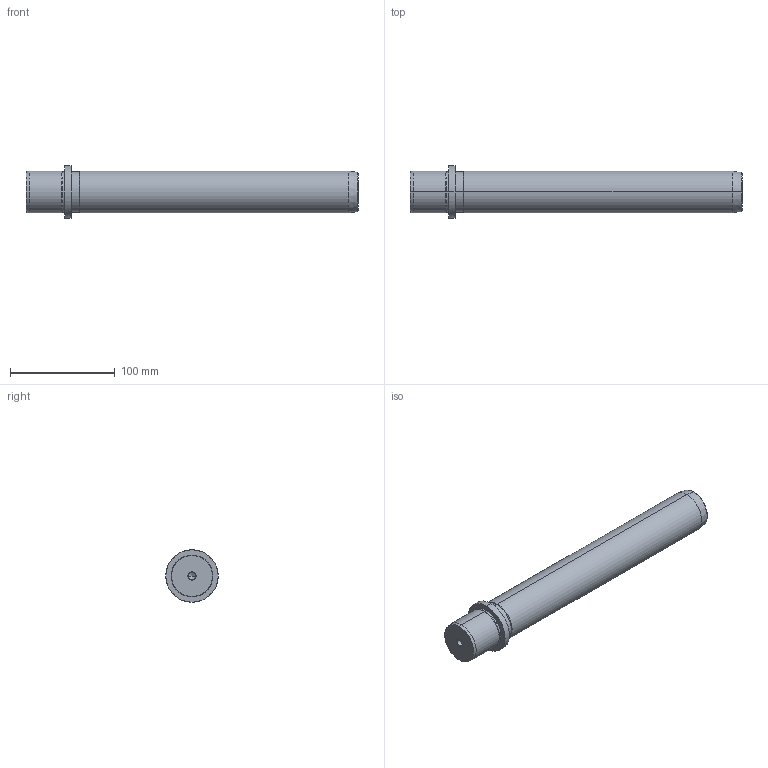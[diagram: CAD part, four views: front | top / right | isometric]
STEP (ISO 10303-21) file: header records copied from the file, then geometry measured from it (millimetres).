
FILE_DESCRIPTION(('CATIA V5 STEP Exchange'),'2;1');
FILE_NAME('C:\Users\Utente\Desktop\IO LAVORO\3D X SITO CF\X SITO\719\719-40x280.stp','2021-01-03T15:25:59+00:00',('none'),('none'),'CATIA Version 5 Release 20 GA (IN-10)','CATIA V5 STEP AP203','none');
FILE_SCHEMA(('CONFIG_CONTROL_DESIGN'));
Length unit declared in the file: millimetre
Products named in the file (1): 719-40x280
Bounding box: 317 x 50 x 50 mm (x, y, z)
Volume: 399335.9 mm3; surface area: 44801.6 mm2
Topology: 1 solids, 1 shells, 36 faces, 100 edges, 66 vertices
Faces by surface type: cone 16, cylinder 14, plane 4, torus 2
Entity records: 1267 total; most frequent: CARTESIAN_POINT 334, ORIENTED_EDGE 192, DIRECTION 159, EDGE_CURVE 96, AXIS2_PLACEMENT_3D 94, VERTEX_POINT 66, CIRCLE 57, EDGE_LOOP 40
